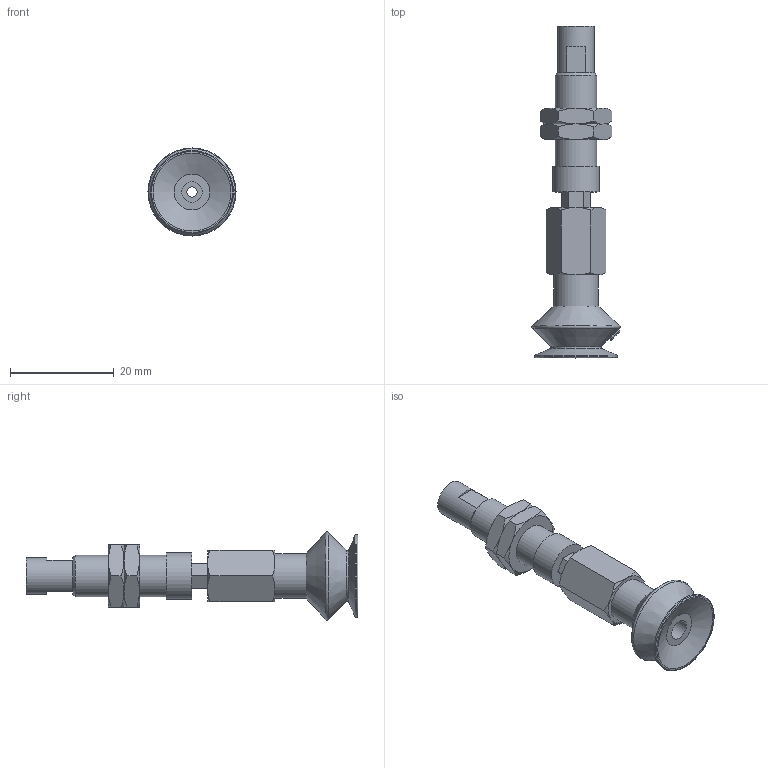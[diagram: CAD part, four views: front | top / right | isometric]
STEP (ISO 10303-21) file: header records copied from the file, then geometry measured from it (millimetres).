
FILE_DESCRIPTION(('STEP AP203'),'1');
FILE_NAME('.stp','2025-08-27T00:44:49',(' '),(' '),'Spatial InterOp 3D',' ',' ');
FILE_SCHEMA(('CONFIG_CONTROL_DESIGN'));
Length unit declared in the file: millimetre
Products named in the file (8): BNABPBTH-15A-3-※; ADAPTER; NAPATH-10A-3--M; Nut-15A-S-PB; NAPBTH-15A-3-FBODY; BPBG-15A-※; __27; BPBG-15A
Assembly tree (8 placements, depth 3):
  BNABPBTH-15A-3-※
    ADAPTER
    NAPATH-10A-3--M
    Nut-15A-S-PB  x2
    NAPBTH-15A-3-FBODY
    BPBG-15A-※
      __27
      BPBG-15A
Bounding box: 17 x 64 x 17 mm (x, y, z)
Volume: 4476.5 mm3; surface area: 4726.7 mm2
Topology: 7 solids, 7 shells, 138 faces, 302 edges, 186 vertices
Faces by surface type: plane 54, cone 50, cylinder 15, torus 11, bspline 8
Full cylindrical faces by diameter (mm): 2 x2, 4 x3, 4.134 x1, 6 x2, 7 x1, 7.188 x2, 8 x1, 8.5 x1, 9 x1, 16 x1
Entity records: 4597 total; most frequent: CARTESIAN_POINT 1947, DIRECTION 453, ORIENTED_EDGE 414, EDGE_CURVE 207, AXIS2_PLACEMENT_3D 194, EDGE_LOOP 167, VERTEX_POINT 146, FACE_OUTER_BOUND 140
